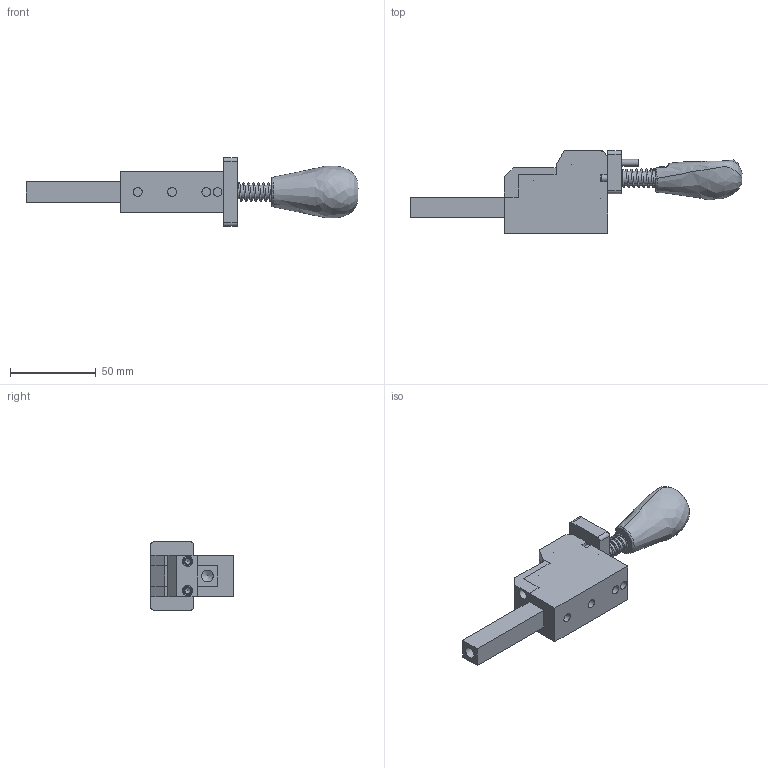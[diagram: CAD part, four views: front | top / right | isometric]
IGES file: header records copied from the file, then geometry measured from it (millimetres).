
Global section: file name: KCP-40ST-CLAMP; native system: Autodesk Inventor 2019; preprocessor: unknown; author: 桶田 勝弘,,11,0, ; organization: 20171008.232523; date: 20240514.160401; units: millimetre
Bounding box: 193.25 x 48 x 40 mm (x, y, z)
Volume: 88507.2 mm3; surface area: 37400.3 mm2
Topology: 11 solids, 11 shells, 255 faces, 685 edges, 457 vertices
Faces by surface type: bspline 255
